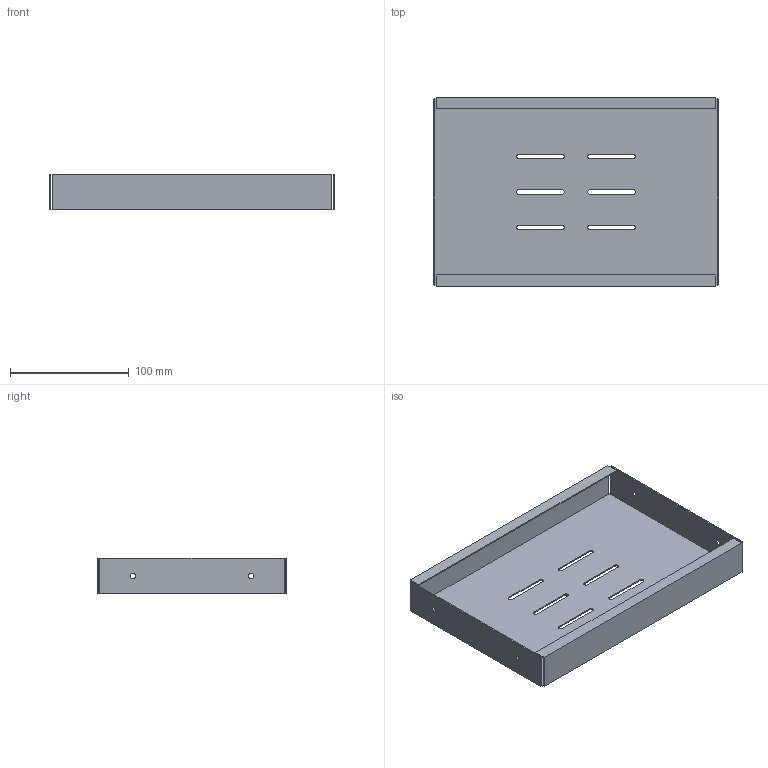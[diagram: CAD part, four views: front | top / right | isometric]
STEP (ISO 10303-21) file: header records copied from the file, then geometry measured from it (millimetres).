
FILE_DESCRIPTION(('Open CASCADE Model'),'2;1');
FILE_NAME('Open CASCADE Shape Model','2026-11-24T09:15:45',('Author'),( 'Open CASCADE'),'Open CASCADE STEP processor 7.9','Open CASCADE 7.9' ,'Unknown');
FILE_SCHEMA(('AUTOMOTIVE_DESIGN { 1 0 10303 214 1 1 1 1 }'));
Length unit declared in the file: millimetre
Products named in the file (1): Open CASCADE STEP translator 7.9 1
Bounding box: 240 x 160 x 30 mm (x, y, z)
Volume: 64369 mm3; surface area: 130369.9 mm2
Topology: 1 solids, 1 shells, 62 faces, 172 edges, 112 vertices
Faces by surface type: plane 46, cylinder 16
Full cylindrical faces by diameter (mm): 4.5 x4
Entity records: 4334 total; most frequent: CARTESIAN_POINT 859, DIRECTION 646, LINE 452, VECTOR 452, ORIENTED_EDGE 344, PCURVE 344, DEFINITIONAL_REPRESENTATION 344, EDGE_CURVE 172
